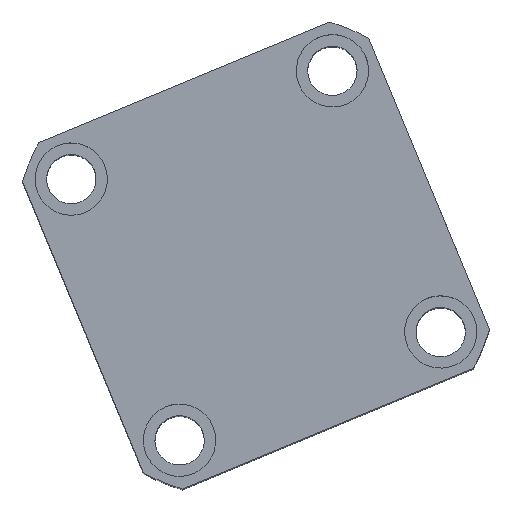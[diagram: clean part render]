
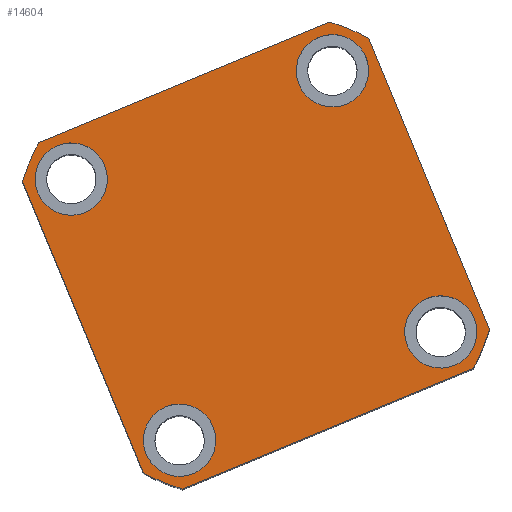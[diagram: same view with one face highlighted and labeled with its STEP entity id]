
A CAD part, top view. The second image highlights one B-rep face of the part: STEP entity #14604.
In plain terms, the highlighted planar face has unit normal (0, 0, 1) as drawn and (0, 0, -1) by its records, which use the part's own axes.
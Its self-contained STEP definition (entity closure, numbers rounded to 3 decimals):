
#28 = CARTESIAN_POINT ( 'NONE',  ( -43., -43., 0. ) ) ;
#94 = DIRECTION ( 'NONE',  ( 1., 0., 0. ) ) ;
#180 = ORIENTED_EDGE ( 'NONE', *, *, #278, .F. ) ;
#199 = CIRCLE ( 'NONE', #9282, 11. ) ;
#238 = DIRECTION ( 'NONE',  ( 1., 0., 0. ) ) ;
#278 = EDGE_CURVE ( 'NONE', #11717, #466, #2860, .T. ) ;
#323 = CARTESIAN_POINT ( 'NONE',  ( 0., 0., 0. ) ) ;
#466 = VERTEX_POINT ( 'NONE', #6712 ) ;
#505 = CIRCLE ( 'NONE', #8154, 11. ) ;
#540 = CARTESIAN_POINT ( 'NONE',  ( 0., 0., 0. ) ) ;
#643 = AXIS2_PLACEMENT_3D ( 'NONE', #6055, #6060, #6070 ) ;
#717 = DIRECTION ( 'NONE',  ( -1., 0., 0. ) ) ;
#766 = DIRECTION ( 'NONE',  ( -1., 0., 0. ) ) ;
#1022 = CARTESIAN_POINT ( 'NONE',  ( 54., 43., 0. ) ) ;
#1163 = DIRECTION ( 'NONE',  ( 0., 1., 0. ) ) ;
#1396 = CARTESIAN_POINT ( 'NONE',  ( -57., 47.971, 0. ) ) ;
#1405 = EDGE_CURVE ( 'NONE', #12465, #7807, #10170, .T. ) ;
#1683 = ORIENTED_EDGE ( 'NONE', *, *, #9321, .F. ) ;
#1708 = PLANE ( 'NONE',  #4180 ) ;
#1834 = CARTESIAN_POINT ( 'NONE',  ( -32., 43., 0. ) ) ;
#1938 = DIRECTION ( 'NONE',  ( 0., -1., 0. ) ) ;
#2219 = VERTEX_POINT ( 'NONE', #2285 ) ;
#2285 = CARTESIAN_POINT ( 'NONE',  ( -54., 43., 0. ) ) ;
#2492 = CIRCLE ( 'NONE', #8785, 11. ) ;
#2587 = ORIENTED_EDGE ( 'NONE', *, *, #4642, .F. ) ;
#2631 = CARTESIAN_POINT ( 'NONE',  ( 0., 0., 0. ) ) ;
#2656 = VERTEX_POINT ( 'NONE', #1396 ) ;
#2717 = ORIENTED_EDGE ( 'NONE', *, *, #3799, .F. ) ;
#2719 = DIRECTION ( 'NONE',  ( 0., 0., 1. ) ) ;
#2758 = VERTEX_POINT ( 'NONE', #1834 ) ;
#2760 = LINE ( 'NONE', #7446, #5080 ) ;
#2827 = DIRECTION ( 'NONE',  ( 1., 0., 0. ) ) ;
#2833 = EDGE_CURVE ( 'NONE', #7227, #10291, #10294, .T. ) ;
#2860 = CIRCLE ( 'NONE', #643, 74.5 ) ;
#2980 = DIRECTION ( 'NONE',  ( 0., 0., 1. ) ) ;
#3193 = EDGE_CURVE ( 'NONE', #6264, #11870, #14646, .T. ) ;
#3483 = CARTESIAN_POINT ( 'NONE',  ( 57., -47.971, 0. ) ) ;
#3654 = CIRCLE ( 'NONE', #4105, 11. ) ;
#3795 = ORIENTED_EDGE ( 'NONE', *, *, #4336, .F. ) ;
#3799 = EDGE_CURVE ( 'NONE', #13732, #4079, #8676, .T. ) ;
#3808 = LINE ( 'NONE', #9006, #9583 ) ;
#4079 = VERTEX_POINT ( 'NONE', #6985 ) ;
#4105 = AXIS2_PLACEMENT_3D ( 'NONE', #14759, #7818, #717 ) ;
#4180 = AXIS2_PLACEMENT_3D ( 'NONE', #540, #5322, #13504 ) ;
#4336 = EDGE_CURVE ( 'NONE', #11870, #6264, #505, .T. ) ;
#4457 = DIRECTION ( 'NONE',  ( 0., 0., -1. ) ) ;
#4622 = FACE_OUTER_BOUND ( 'NONE', #9040, .T. ) ;
#4642 = EDGE_CURVE ( 'NONE', #2758, #2219, #5289, .T. ) ;
#4736 = AXIS2_PLACEMENT_3D ( 'NONE', #6340, #6333, #6298 ) ;
#5080 = VECTOR ( 'NONE', #238, 1000. ) ;
#5241 = ORIENTED_EDGE ( 'NONE', *, *, #1405, .F. ) ;
#5289 = CIRCLE ( 'NONE', #13561, 11. ) ;
#5322 = DIRECTION ( 'NONE',  ( 0., 0., 1. ) ) ;
#5518 = EDGE_CURVE ( 'NONE', #7474, #2656, #12091, .T. ) ;
#5624 = DIRECTION ( 'NONE',  ( -1., 0., 0. ) ) ;
#5685 = DIRECTION ( 'NONE',  ( 0., 0., -1. ) ) ;
#5753 = CARTESIAN_POINT ( 'NONE',  ( 43., 43., 0. ) ) ;
#6055 = CARTESIAN_POINT ( 'NONE',  ( 0., 0., 0. ) ) ;
#6060 = DIRECTION ( 'NONE',  ( 0., 0., 1. ) ) ;
#6065 = DIRECTION ( 'NONE',  ( -1., 0., 0. ) ) ;
#6070 = DIRECTION ( 'NONE',  ( 1., 0., 0. ) ) ;
#6112 = DIRECTION ( 'NONE',  ( 0., 0., -1. ) ) ;
#6163 = CARTESIAN_POINT ( 'NONE',  ( 43., -43., 0. ) ) ;
#6236 = DIRECTION ( 'NONE',  ( 0., 0., -1. ) ) ;
#6264 = VERTEX_POINT ( 'NONE', #7598 ) ;
#6298 = DIRECTION ( 'NONE',  ( -1., 0., 0. ) ) ;
#6333 = DIRECTION ( 'NONE',  ( 0., 0., -1. ) ) ;
#6340 = CARTESIAN_POINT ( 'NONE',  ( 43., -43., 0. ) ) ;
#6712 = CARTESIAN_POINT ( 'NONE',  ( -47.971, -57., 0. ) ) ;
#6985 = CARTESIAN_POINT ( 'NONE',  ( -54., -43., 0. ) ) ;
#7227 = VERTEX_POINT ( 'NONE', #12335 ) ;
#7446 = CARTESIAN_POINT ( 'NONE',  ( -57., -57., 0. ) ) ;
#7474 = VERTEX_POINT ( 'NONE', #8519 ) ;
#7534 = LINE ( 'NONE', #9446, #13689 ) ;
#7564 = CARTESIAN_POINT ( 'NONE',  ( 47.971, 57., 0. ) ) ;
#7598 = CARTESIAN_POINT ( 'NONE',  ( 32., -43., 0. ) ) ;
#7799 = FACE_BOUND ( 'NONE', #14482, .T. ) ;
#7807 = VERTEX_POINT ( 'NONE', #11366 ) ;
#7818 = DIRECTION ( 'NONE',  ( 0., 0., -1. ) ) ;
#7959 = ORIENTED_EDGE ( 'NONE', *, *, #5518, .F. ) ;
#8154 = AXIS2_PLACEMENT_3D ( 'NONE', #6163, #6112, #6065 ) ;
#8266 = EDGE_CURVE ( 'NONE', #466, #13937, #2760, .T. ) ;
#8480 = AXIS2_PLACEMENT_3D ( 'NONE', #10006, #2980, #11161 ) ;
#8519 = CARTESIAN_POINT ( 'NONE',  ( -47.971, 57., 0. ) ) ;
#8552 = DIRECTION ( 'NONE',  ( 0., 0., -1. ) ) ;
#8676 = CIRCLE ( 'NONE', #9239, 11. ) ;
#8785 = AXIS2_PLACEMENT_3D ( 'NONE', #11516, #4457, #12672 ) ;
#8802 = AXIS2_PLACEMENT_3D ( 'NONE', #5753, #5685, #5624 ) ;
#9006 = CARTESIAN_POINT ( 'NONE',  ( -57., 57., 0. ) ) ;
#9040 = EDGE_LOOP ( 'NONE', ( #15005, #9898, #10636, #14761, #180, #1683, #7959, #13981 ) ) ;
#9093 = CARTESIAN_POINT ( 'NONE',  ( 47.971, -57., 0. ) ) ;
#9188 = VECTOR ( 'NONE', #766, 1000. ) ;
#9239 = AXIS2_PLACEMENT_3D ( 'NONE', #28, #8552, #10816 ) ;
#9240 = EDGE_CURVE ( 'NONE', #7807, #12465, #3654, .T. ) ;
#9282 = AXIS2_PLACEMENT_3D ( 'NONE', #13218, #6236, #14408 ) ;
#9321 = EDGE_CURVE ( 'NONE', #2656, #11717, #3808, .T. ) ;
#9446 = CARTESIAN_POINT ( 'NONE',  ( 57., 57., 0. ) ) ;
#9583 = VECTOR ( 'NONE', #1938, 1000. ) ;
#9898 = ORIENTED_EDGE ( 'NONE', *, *, #10071, .F. ) ;
#9916 = LINE ( 'NONE', #14809, #9188 ) ;
#10006 = CARTESIAN_POINT ( 'NONE',  ( 0., 0., 0. ) ) ;
#10071 = EDGE_CURVE ( 'NONE', #10723, #7227, #7534, .T. ) ;
#10170 = CIRCLE ( 'NONE', #8802, 11. ) ;
#10291 = VERTEX_POINT ( 'NONE', #7564 ) ;
#10294 = CIRCLE ( 'NONE', #12889, 74.5 ) ;
#10358 = EDGE_CURVE ( 'NONE', #13937, #10723, #12603, .T. ) ;
#10487 = EDGE_CURVE ( 'NONE', #10291, #7474, #9916, .T. ) ;
#10636 = ORIENTED_EDGE ( 'NONE', *, *, #10358, .F. ) ;
#10669 = EDGE_LOOP ( 'NONE', ( #10788, #5241 ) ) ;
#10723 = VERTEX_POINT ( 'NONE', #3483 ) ;
#10745 = CARTESIAN_POINT ( 'NONE',  ( -57., -47.971, 0. ) ) ;
#10788 = ORIENTED_EDGE ( 'NONE', *, *, #9240, .F. ) ;
#10816 = DIRECTION ( 'NONE',  ( -1., 0., 0. ) ) ;
#10887 = FACE_BOUND ( 'NONE', #11764, .T. ) ;
#11156 = CARTESIAN_POINT ( 'NONE',  ( -32., -43., 0. ) ) ;
#11161 = DIRECTION ( 'NONE',  ( 1., 0., 0. ) ) ;
#11366 = CARTESIAN_POINT ( 'NONE',  ( 32., 43., 0. ) ) ;
#11516 = CARTESIAN_POINT ( 'NONE',  ( -43., -43., 0. ) ) ;
#11717 = VERTEX_POINT ( 'NONE', #10745 ) ;
#11764 = EDGE_LOOP ( 'NONE', ( #12389, #3795 ) ) ;
#11870 = VERTEX_POINT ( 'NONE', #14341 ) ;
#12091 = CIRCLE ( 'NONE', #14019, 74.5 ) ;
#12335 = CARTESIAN_POINT ( 'NONE',  ( 57., 47.971, 0. ) ) ;
#12389 = ORIENTED_EDGE ( 'NONE', *, *, #3193, .F. ) ;
#12465 = VERTEX_POINT ( 'NONE', #1022 ) ;
#12603 = CIRCLE ( 'NONE', #8480, 74.5 ) ;
#12672 = DIRECTION ( 'NONE',  ( -1., 0., 0. ) ) ;
#12889 = AXIS2_PLACEMENT_3D ( 'NONE', #2631, #2719, #2827 ) ;
#13218 = CARTESIAN_POINT ( 'NONE',  ( -43., 43., 0. ) ) ;
#13498 = ORIENTED_EDGE ( 'NONE', *, *, #14370, .F. ) ;
#13504 = DIRECTION ( 'NONE',  ( 1., 0., 0. ) ) ;
#13561 = AXIS2_PLACEMENT_3D ( 'NONE', #14520, #14168, #13617 ) ;
#13617 = DIRECTION ( 'NONE',  ( -1., 0., 0. ) ) ;
#13630 = ORIENTED_EDGE ( 'NONE', *, *, #13965, .F. ) ;
#13689 = VECTOR ( 'NONE', #1163, 1000. ) ;
#13732 = VERTEX_POINT ( 'NONE', #11156 ) ;
#13937 = VERTEX_POINT ( 'NONE', #9093 ) ;
#13965 = EDGE_CURVE ( 'NONE', #4079, #13732, #2492, .T. ) ;
#13980 = FACE_BOUND ( 'NONE', #10669, .T. ) ;
#13981 = ORIENTED_EDGE ( 'NONE', *, *, #10487, .F. ) ;
#14019 = AXIS2_PLACEMENT_3D ( 'NONE', #323, #14182, #94 ) ;
#14115 = EDGE_LOOP ( 'NONE', ( #13630, #2717 ) ) ;
#14168 = DIRECTION ( 'NONE',  ( 0., 0., -1. ) ) ;
#14182 = DIRECTION ( 'NONE',  ( 0., 0., 1. ) ) ;
#14341 = CARTESIAN_POINT ( 'NONE',  ( 54., -43., 0. ) ) ;
#14349 = FACE_BOUND ( 'NONE', #14115, .T. ) ;
#14370 = EDGE_CURVE ( 'NONE', #2219, #2758, #199, .T. ) ;
#14408 = DIRECTION ( 'NONE',  ( -1., 0., 0. ) ) ;
#14482 = EDGE_LOOP ( 'NONE', ( #13498, #2587 ) ) ;
#14520 = CARTESIAN_POINT ( 'NONE',  ( -43., 43., 0. ) ) ;
#14604 = ADVANCED_FACE ( 'NONE', ( #14349, #10887, #13980, #7799, #4622 ), #1708, .F. ) ;
#14646 = CIRCLE ( 'NONE', #4736, 11. ) ;
#14759 = CARTESIAN_POINT ( 'NONE',  ( 43., 43., 0. ) ) ;
#14761 = ORIENTED_EDGE ( 'NONE', *, *, #8266, .F. ) ;
#14809 = CARTESIAN_POINT ( 'NONE',  ( -57., 57., 0. ) ) ;
#15005 = ORIENTED_EDGE ( 'NONE', *, *, #2833, .F. ) ;
